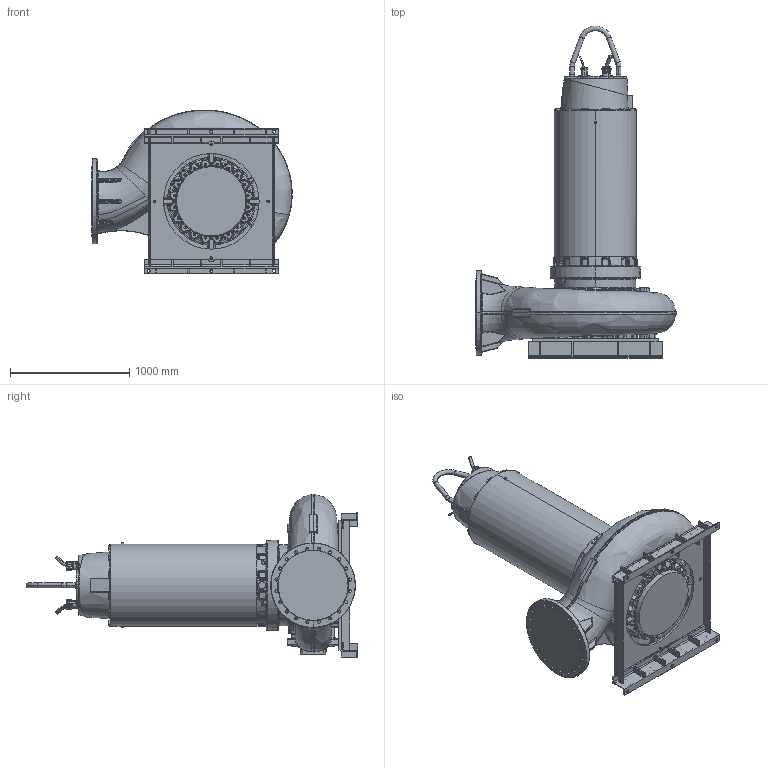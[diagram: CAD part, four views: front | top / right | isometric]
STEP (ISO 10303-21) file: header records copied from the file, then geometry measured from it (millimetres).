
FILE_DESCRIPTION (( 'STEP AP214' ), '1' );
FILE_NAME ('PE7_XFP500U-CH3_DRY_A.STEP', '2017-03-31T07:30:37', ( '' ), ( '' ), 'SwSTEP 2.0', 'SolidWorks 2017', '' );
FILE_SCHEMA (( 'AUTOMOTIVE_DESIGN' ));
Length unit declared in the file: millimetre
Products named in the file (1): PE7_XFP500U-CH3_DRY_A
Bounding box: 1676.98 x 2777.5 x 1371.03 mm (x, y, z)
Volume: 1208335793.4 mm3; surface area: 12681606.2 mm2
Topology: 3 solids, 15 shells, 4129 faces, 10069 edges, 5808 vertices
Faces by surface type: bspline 1170, plane 976, cylinder 869, cone 467, torus 442, sphere 205
Entity records: 257142 total; most frequent: CARTESIAN_POINT 124562, ORIENTED_EDGE 19656, DIRECTION 16417, EDGE_CURVE 9828, AXIS2_PLACEMENT_3D 6627, VERTEX_POINT 5808, EDGE_LOOP 4366, UNCERTAINTY_MEASURE_WITH_UNIT 4134
